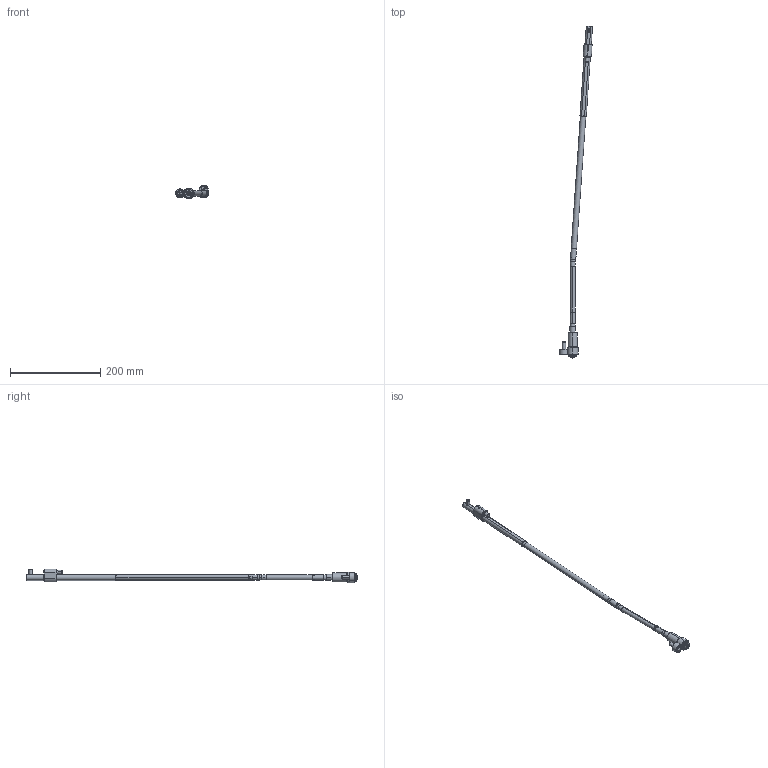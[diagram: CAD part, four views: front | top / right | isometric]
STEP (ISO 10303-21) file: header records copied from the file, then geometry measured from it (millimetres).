
FILE_DESCRIPTION (( 'STEP AP214' ), '1' );
FILE_NAME ('WL120100-INJ 4°.STEP', '2021-03-19T15:35:55', ( '' ), ( '' ), 'SwSTEP 2.0', 'SolidWorks 2019', '' );
FILE_SCHEMA (( 'AUTOMOTIVE_DESIGN' ));
Length unit declared in the file: millimetre
Products named in the file (17): Web-WL12-A8; WL120100-D; Web-WL12-A3; WL120100-B1; Web-WL12-A1; WL120100-INJ 4°; WL120100-E; Web-WL12-F01; 1DIN912820_DIN 912 M8 x 20 --- 20C; WL120100-B; 8WL12EJEP; 9DR2808-TOR; Web-WL12-XX_OFF-WL120100-4; 1DIN912645_DIN 912 M6 x 45 --- 45C; Web-WL12-F00.SLDPRT; 3IMAN5X3-150_con sellador; Web-WL12-A2
Assembly tree (16 placements, depth 3):
  WL120100-INJ 4°
    Web-WL12-A8
    Web-WL12-XX_OFF-WL120100-4
    Web-WL12-A3
    Web-WL12-A2
    Web-WL12-A1
    Web-WL12-F00.SLDPRT
      Web-WL12-F01
      1DIN912820_DIN 912 M8 x 20 --- 20C
      1DIN912645_DIN 912 M6 x 45 --- 45C
    WL120100-D
    8WL12EJEP
    WL120100-E
    9DR2808-TOR
    WL120100-B
      WL120100-B1
      3IMAN5X3-150_con sellador
Bounding box: 73.26 x 737.18 x 29.9 mm (x, y, z)
Volume: 113342 mm3; surface area: 49842.4 mm2
Topology: 15 solids, 15 shells, 432 faces, 906 edges, 525 vertices
Faces by surface type: plane 139, cylinder 123, cone 120, torus 50
Entity records: 13661 total; most frequent: DIRECTION 2240, CARTESIAN_POINT 2104, ORIENTED_EDGE 1788, AXIS2_PLACEMENT_3D 929, EDGE_CURVE 894, VERTEX_POINT 525, EDGE_LOOP 477, CIRCLE 476
